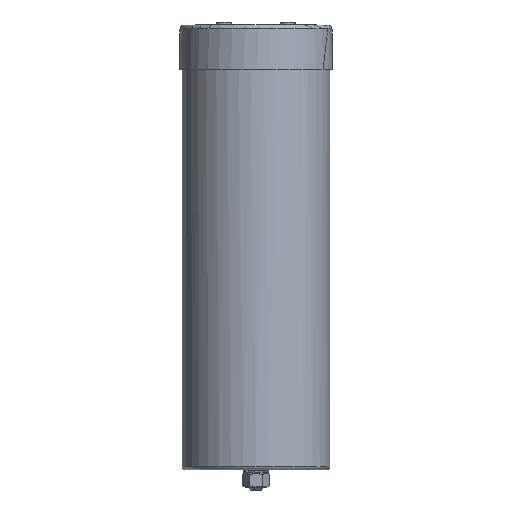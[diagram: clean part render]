
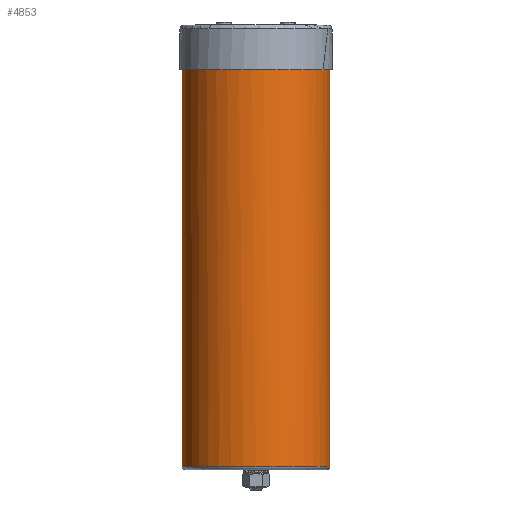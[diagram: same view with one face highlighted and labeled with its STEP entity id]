
A CAD part, front view. The second image highlights one B-rep face of the part: STEP entity #4853.
In plain terms, the highlighted cylindrical face has radius 58 mm (diameter 116 mm), a partial arc.
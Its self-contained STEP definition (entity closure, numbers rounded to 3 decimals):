
#104 = VECTOR ( 'NONE', #2919, 1000. ) ;
#177 = CIRCLE ( 'NONE', #3926, 58. ) ;
#334 = LINE ( 'NONE', #2208, #104 ) ;
#530 = DIRECTION ( 'NONE',  ( 0., 0., 1. ) ) ;
#595 = VECTOR ( 'NONE', #6913, 1000. ) ;
#754 = DIRECTION ( 'NONE',  ( -1., 0., 0. ) ) ;
#903 = DIRECTION ( 'NONE',  ( 0., 0., -1. ) ) ;
#1275 = CYLINDRICAL_SURFACE ( 'NONE', #6927, 58. ) ;
#1692 = VERTEX_POINT ( 'NONE', #9124 ) ;
#1798 = ORIENTED_EDGE ( 'NONE', *, *, #7320, .T. ) ;
#1974 = CARTESIAN_POINT ( 'NONE',  ( -15.5, 0., 293.567 ) ) ;
#2208 = CARTESIAN_POINT ( 'NONE',  ( -73.5, 0., 151.967 ) ) ;
#2222 = DIRECTION ( 'NONE',  ( 0., 0., -1. ) ) ;
#2531 = EDGE_CURVE ( 'NONE', #6213, #8281, #177, .T. ) ;
#2576 = ORIENTED_EDGE ( 'NONE', *, *, #4922, .F. ) ;
#2919 = DIRECTION ( 'NONE',  ( 0., 0., -1. ) ) ;
#2978 = LINE ( 'NONE', #6058, #595 ) ;
#3312 = CIRCLE ( 'NONE', #4216, 58. ) ;
#3894 = CARTESIAN_POINT ( 'NONE',  ( -15.5, 0., -18.854 ) ) ;
#3926 = AXIS2_PLACEMENT_3D ( 'NONE', #7282, #7322, #6465 ) ;
#4168 = CARTESIAN_POINT ( 'NONE',  ( -73.5, 0., -18.854 ) ) ;
#4216 = AXIS2_PLACEMENT_3D ( 'NONE', #1974, #530, #5731 ) ;
#4770 = AXIS2_PLACEMENT_3D ( 'NONE', #3894, #903, #6800 ) ;
#4853 = ADVANCED_FACE ( 'NONE', ( #5177 ), #1275, .T. ) ;
#4922 = EDGE_CURVE ( 'NONE', #8281, #1692, #2978, .T. ) ;
#5177 = FACE_OUTER_BOUND ( 'NONE', #6517, .T. ) ;
#5334 = ORIENTED_EDGE ( 'NONE', *, *, #6194, .F. ) ;
#5399 = VERTEX_POINT ( 'NONE', #4168 ) ;
#5572 = VERTEX_POINT ( 'NONE', #7612 ) ;
#5731 = DIRECTION ( 'NONE',  ( -1., 0., 0. ) ) ;
#6058 = CARTESIAN_POINT ( 'NONE',  ( 42.5, 0., 151.967 ) ) ;
#6194 = EDGE_CURVE ( 'NONE', #5572, #6213, #3312, .T. ) ;
#6213 = VERTEX_POINT ( 'NONE', #8601 ) ;
#6221 = ORIENTED_EDGE ( 'NONE', *, *, #2531, .F. ) ;
#6465 = DIRECTION ( 'NONE',  ( -1., 0., 0. ) ) ;
#6517 = EDGE_LOOP ( 'NONE', ( #2576, #6221, #5334, #1798, #7486 ) ) ;
#6800 = DIRECTION ( 'NONE',  ( -1., 0., 0. ) ) ;
#6913 = DIRECTION ( 'NONE',  ( 0., 0., -1. ) ) ;
#6927 = AXIS2_PLACEMENT_3D ( 'NONE', #7390, #2222, #754 ) ;
#6946 = EDGE_CURVE ( 'NONE', #1692, #5399, #8832, .T. ) ;
#7282 = CARTESIAN_POINT ( 'NONE',  ( -15.5, 0., 293.567 ) ) ;
#7320 = EDGE_CURVE ( 'NONE', #5572, #5399, #334, .T. ) ;
#7322 = DIRECTION ( 'NONE',  ( 0., 0., 1. ) ) ;
#7390 = CARTESIAN_POINT ( 'NONE',  ( -15.5, 0., 151.967 ) ) ;
#7486 = ORIENTED_EDGE ( 'NONE', *, *, #6946, .F. ) ;
#7612 = CARTESIAN_POINT ( 'NONE',  ( -73.5, 0., 293.567 ) ) ;
#8281 = VERTEX_POINT ( 'NONE', #8540 ) ;
#8540 = CARTESIAN_POINT ( 'NONE',  ( 42.5, 0., 293.567 ) ) ;
#8601 = CARTESIAN_POINT ( 'NONE',  ( 42.027, -7.39, 293.567 ) ) ;
#8832 = CIRCLE ( 'NONE', #4770, 58. ) ;
#9124 = CARTESIAN_POINT ( 'NONE',  ( 42.5, 0., -18.854 ) ) ;
